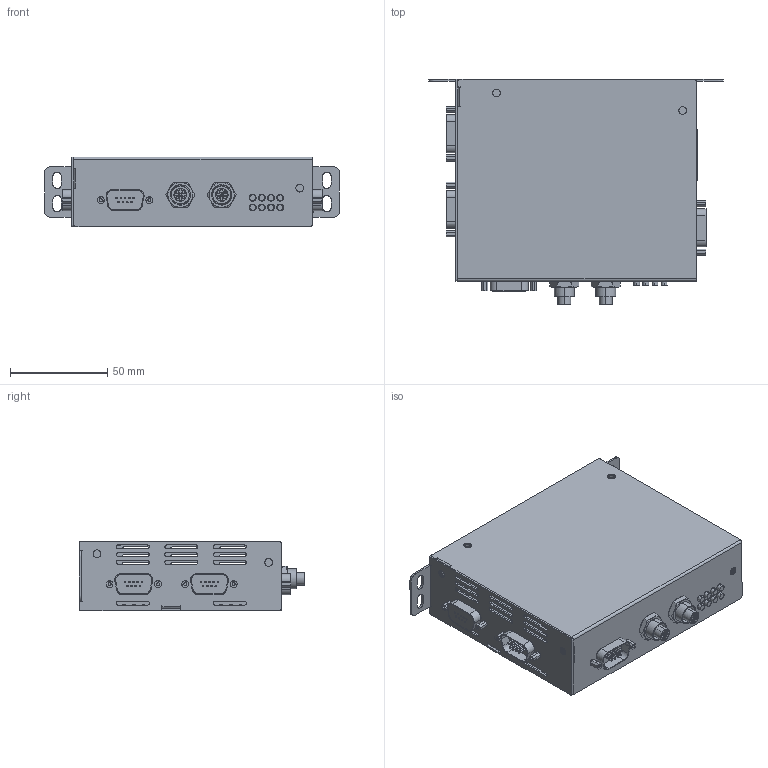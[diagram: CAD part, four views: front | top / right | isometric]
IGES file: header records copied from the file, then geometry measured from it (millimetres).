
Global section: file name: C:\Users\Administrator\Desktop\; native system: Rhinoceros ( Nov 21 2023 ); preprocessor: Trout Lake IGES 012 Nov 21 2023; date: 250321.070555; units: centimetre
Bounding box: 151.99 x 116 x 36 mm (x, y, z)
Surface area: 117416.4 mm2 (no closed solid volume)
Topology: 0 solids, 0 shells, 1089 faces, 6188 edges, 6182 vertices
Faces by surface type: bspline 1089
